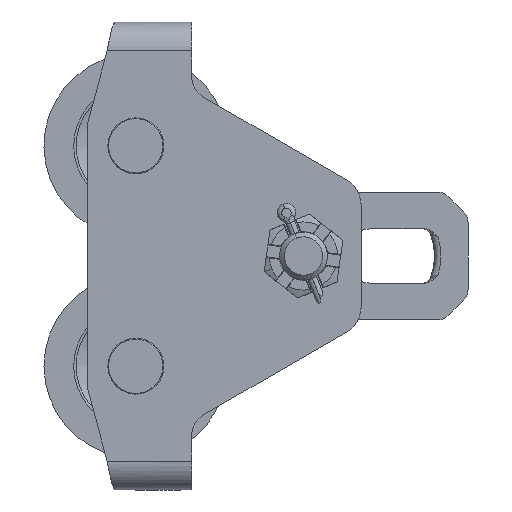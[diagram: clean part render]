
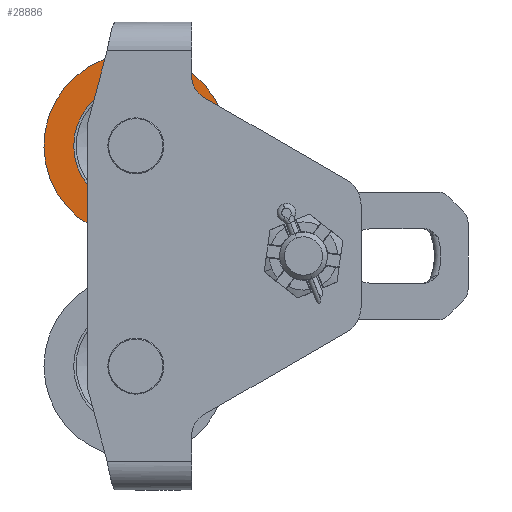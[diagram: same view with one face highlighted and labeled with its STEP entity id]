
A CAD part, left-side view. The second image highlights one B-rep face of the part: STEP entity #28886.
In plain terms, the highlighted planar face has unit normal (-1, 0, 0).
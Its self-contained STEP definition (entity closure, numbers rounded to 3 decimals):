
#1024 = EDGE_CURVE ( 'NONE', #24654, #25511, #1505, .T. ) ;
#1505 = CIRCLE ( 'NONE', #2594, 57.5 ) ;
#2594 = AXIS2_PLACEMENT_3D ( 'NONE', #12051, #9623, #4696 ) ;
#3258 = CARTESIAN_POINT ( 'NONE',  ( -66.514, 136.569, 276.857 ) ) ;
#4696 = DIRECTION ( 'NONE',  ( 0., -0.513, -0.858 ) ) ;
#4844 = VERTEX_POINT ( 'NONE', #13140 ) ;
#5878 = FACE_OUTER_BOUND ( 'NONE', #21521, .T. ) ;
#8293 = CIRCLE ( 'NONE', #9329, 57.5 ) ;
#8308 = DIRECTION ( 'NONE',  ( 0., -0.513, -0.858 ) ) ;
#8333 = FACE_BOUND ( 'NONE', #13445, .T. ) ;
#8950 = DIRECTION ( 'NONE',  ( -1., 0., 0. ) ) ;
#9235 = CARTESIAN_POINT ( 'NONE',  ( -66.514, 107.055, 227.51 ) ) ;
#9329 = AXIS2_PLACEMENT_3D ( 'NONE', #31422, #18567, #18882 ) ;
#9623 = DIRECTION ( 'NONE',  ( -1., 0., 0. ) ) ;
#10410 = CARTESIAN_POINT ( 'NONE',  ( -66.514, 87.092, 194.132 ) ) ;
#12051 = CARTESIAN_POINT ( 'NONE',  ( -66.514, 107.055, 227.51 ) ) ;
#12918 = CARTESIAN_POINT ( 'NONE',  ( -66.514, 107.055, 227.51 ) ) ;
#13140 = CARTESIAN_POINT ( 'NONE',  ( -66.514, 127.018, 260.888 ) ) ;
#13445 = EDGE_LOOP ( 'NONE', ( #14204, #23302 ) ) ;
#14204 = ORIENTED_EDGE ( 'NONE', *, *, #14699, .F. ) ;
#14216 = CIRCLE ( 'NONE', #29039, 38.892 ) ;
#14352 = EDGE_CURVE ( 'NONE', #25511, #24654, #8293, .T. ) ;
#14699 = EDGE_CURVE ( 'NONE', #15798, #4844, #22038, .T. ) ;
#15798 = VERTEX_POINT ( 'NONE', #10410 ) ;
#18047 = ORIENTED_EDGE ( 'NONE', *, *, #1024, .T. ) ;
#18567 = DIRECTION ( 'NONE',  ( -1., 0., 0. ) ) ;
#18882 = DIRECTION ( 'NONE',  ( 0., -0.513, -0.858 ) ) ;
#19832 = DIRECTION ( 'NONE',  ( 0., -0.513, -0.858 ) ) ;
#21365 = DIRECTION ( 'NONE',  ( 0., 0.513, 0.858 ) ) ;
#21521 = EDGE_LOOP ( 'NONE', ( #30112, #18047 ) ) ;
#22038 = CIRCLE ( 'NONE', #28899, 38.892 ) ;
#23048 = CARTESIAN_POINT ( 'NONE',  ( -66.514, 77.54, 178.163 ) ) ;
#23222 = PLANE ( 'NONE',  #27623 ) ;
#23302 = ORIENTED_EDGE ( 'NONE', *, *, #24816, .F. ) ;
#24654 = VERTEX_POINT ( 'NONE', #26220 ) ;
#24816 = EDGE_CURVE ( 'NONE', #4844, #15798, #14216, .T. ) ;
#25511 = VERTEX_POINT ( 'NONE', #23048 ) ;
#26211 = DIRECTION ( 'NONE',  ( 1., 0., 0. ) ) ;
#26220 = CARTESIAN_POINT ( 'NONE',  ( -66.514, 136.569, 276.857 ) ) ;
#27623 = AXIS2_PLACEMENT_3D ( 'NONE', #3258, #26211, #21365 ) ;
#28886 = ADVANCED_FACE ( 'NONE', ( #8333, #5878 ), #23222, .F. ) ;
#28899 = AXIS2_PLACEMENT_3D ( 'NONE', #9235, #29583, #19832 ) ;
#29039 = AXIS2_PLACEMENT_3D ( 'NONE', #12918, #8950, #8308 ) ;
#29583 = DIRECTION ( 'NONE',  ( -1., 0., 0. ) ) ;
#30112 = ORIENTED_EDGE ( 'NONE', *, *, #14352, .T. ) ;
#31422 = CARTESIAN_POINT ( 'NONE',  ( -66.514, 107.055, 227.51 ) ) ;
